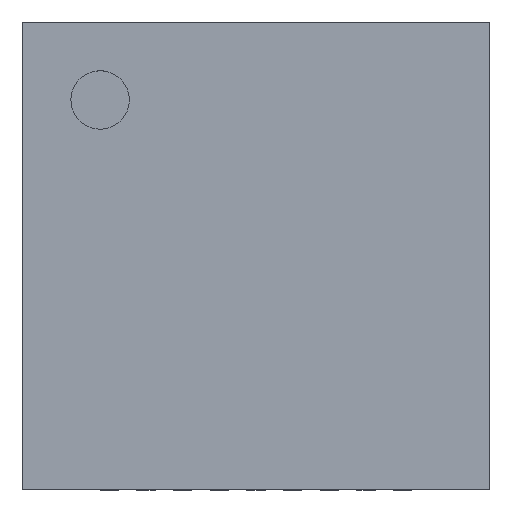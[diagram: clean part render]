
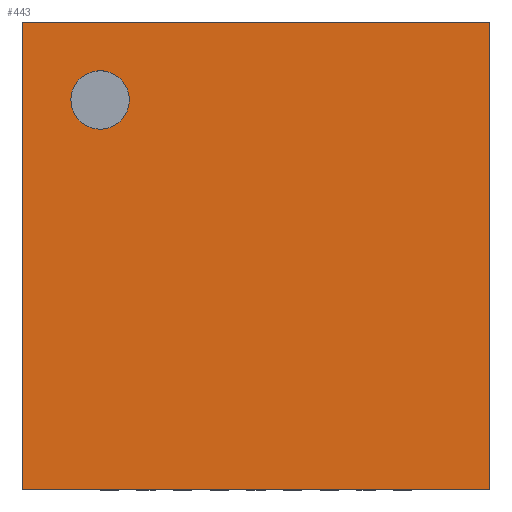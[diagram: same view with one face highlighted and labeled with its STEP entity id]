
A CAD part, top view. The second image highlights one B-rep face of the part: STEP entity #443.
In plain terms, the highlighted planar face has unit normal (0, 0, 1).
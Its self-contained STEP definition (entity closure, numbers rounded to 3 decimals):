
#254 = VERTEX_POINT('',#255);
#255 = CARTESIAN_POINT('',(0.,0.,0.8));
#262 = PLANE('',#263);
#263 = AXIS2_PLACEMENT_3D('',#264,#265,#266);
#264 = CARTESIAN_POINT('',(0.,0.,0.));
#265 = DIRECTION('',(1.,0.,0.));
#266 = DIRECTION('',(0.,0.,1.));
#274 = PLANE('',#275);
#275 = AXIS2_PLACEMENT_3D('',#276,#277,#278);
#276 = CARTESIAN_POINT('',(0.,0.,0.));
#277 = DIRECTION('',(0.,1.,0.));
#278 = DIRECTION('',(0.,0.,1.));
#315 = VERTEX_POINT('',#316);
#316 = CARTESIAN_POINT('',(0.,5.1,0.8));
#330 = PLANE('',#331);
#331 = AXIS2_PLACEMENT_3D('',#332,#333,#334);
#332 = CARTESIAN_POINT('',(0.,5.1,0.));
#333 = DIRECTION('',(0.,1.,0.));
#334 = DIRECTION('',(0.,0.,1.));
#342 = EDGE_CURVE('',#254,#315,#343,.T.);
#343 = SURFACE_CURVE('',#344,(#348,#355),.PCURVE_S1.);
#344 = LINE('',#345,#346);
#345 = CARTESIAN_POINT('',(0.,0.,0.8));
#346 = VECTOR('',#347,1.);
#347 = DIRECTION('',(0.,1.,0.));
#348 = PCURVE('',#262,#349);
#349 = DEFINITIONAL_REPRESENTATION('',(#350),#354);
#350 = LINE('',#351,#352);
#351 = CARTESIAN_POINT('',(0.8,0.));
#352 = VECTOR('',#353,1.);
#353 = DIRECTION('',(0.,-1.));
#354 = ( GEOMETRIC_REPRESENTATION_CONTEXT(2) 
PARAMETRIC_REPRESENTATION_CONTEXT() REPRESENTATION_CONTEXT('2D SPACE',''
  ) );
#355 = PCURVE('',#356,#361);
#356 = PLANE('',#357);
#357 = AXIS2_PLACEMENT_3D('',#358,#359,#360);
#358 = CARTESIAN_POINT('',(0.,0.,0.8));
#359 = DIRECTION('',(0.,0.,1.));
#360 = DIRECTION('',(1.,0.,0.));
#361 = DEFINITIONAL_REPRESENTATION('',(#362),#366);
#362 = LINE('',#363,#364);
#363 = CARTESIAN_POINT('',(0.,0.));
#364 = VECTOR('',#365,1.);
#365 = DIRECTION('',(0.,1.));
#366 = ( GEOMETRIC_REPRESENTATION_CONTEXT(2) 
PARAMETRIC_REPRESENTATION_CONTEXT() REPRESENTATION_CONTEXT('2D SPACE',''
  ) );
#395 = EDGE_CURVE('',#254,#396,#398,.T.);
#396 = VERTEX_POINT('',#397);
#397 = CARTESIAN_POINT('',(5.1,0.,0.8));
#398 = SURFACE_CURVE('',#399,(#403,#410),.PCURVE_S1.);
#399 = LINE('',#400,#401);
#400 = CARTESIAN_POINT('',(0.,0.,0.8));
#401 = VECTOR('',#402,1.);
#402 = DIRECTION('',(1.,0.,0.));
#403 = PCURVE('',#274,#404);
#404 = DEFINITIONAL_REPRESENTATION('',(#405),#409);
#405 = LINE('',#406,#407);
#406 = CARTESIAN_POINT('',(0.8,0.));
#407 = VECTOR('',#408,1.);
#408 = DIRECTION('',(0.,1.));
#409 = ( GEOMETRIC_REPRESENTATION_CONTEXT(2) 
PARAMETRIC_REPRESENTATION_CONTEXT() REPRESENTATION_CONTEXT('2D SPACE',''
  ) );
#410 = PCURVE('',#356,#411);
#411 = DEFINITIONAL_REPRESENTATION('',(#412),#416);
#412 = LINE('',#413,#414);
#413 = CARTESIAN_POINT('',(0.,0.));
#414 = VECTOR('',#415,1.);
#415 = DIRECTION('',(1.,0.));
#416 = ( GEOMETRIC_REPRESENTATION_CONTEXT(2) 
PARAMETRIC_REPRESENTATION_CONTEXT() REPRESENTATION_CONTEXT('2D SPACE',''
  ) );
#432 = PLANE('',#433);
#433 = AXIS2_PLACEMENT_3D('',#434,#435,#436);
#434 = CARTESIAN_POINT('',(5.1,0.,0.));
#435 = DIRECTION('',(1.,0.,0.));
#436 = DIRECTION('',(0.,0.,1.));
#443 = ADVANCED_FACE('',(#444,#492),#356,.T.);
#444 = FACE_BOUND('',#445,.T.);
#445 = EDGE_LOOP('',(#446,#447,#448,#471));
#446 = ORIENTED_EDGE('',*,*,#342,.F.);
#447 = ORIENTED_EDGE('',*,*,#395,.T.);
#448 = ORIENTED_EDGE('',*,*,#449,.T.);
#449 = EDGE_CURVE('',#396,#450,#452,.T.);
#450 = VERTEX_POINT('',#451);
#451 = CARTESIAN_POINT('',(5.1,5.1,0.8));
#452 = SURFACE_CURVE('',#453,(#457,#464),.PCURVE_S1.);
#453 = LINE('',#454,#455);
#454 = CARTESIAN_POINT('',(5.1,0.,0.8));
#455 = VECTOR('',#456,1.);
#456 = DIRECTION('',(0.,1.,0.));
#457 = PCURVE('',#356,#458);
#458 = DEFINITIONAL_REPRESENTATION('',(#459),#463);
#459 = LINE('',#460,#461);
#460 = CARTESIAN_POINT('',(5.1,0.));
#461 = VECTOR('',#462,1.);
#462 = DIRECTION('',(0.,1.));
#463 = ( GEOMETRIC_REPRESENTATION_CONTEXT(2) 
PARAMETRIC_REPRESENTATION_CONTEXT() REPRESENTATION_CONTEXT('2D SPACE',''
  ) );
#464 = PCURVE('',#432,#465);
#465 = DEFINITIONAL_REPRESENTATION('',(#466),#470);
#466 = LINE('',#467,#468);
#467 = CARTESIAN_POINT('',(0.8,0.));
#468 = VECTOR('',#469,1.);
#469 = DIRECTION('',(0.,-1.));
#470 = ( GEOMETRIC_REPRESENTATION_CONTEXT(2) 
PARAMETRIC_REPRESENTATION_CONTEXT() REPRESENTATION_CONTEXT('2D SPACE',''
  ) );
#471 = ORIENTED_EDGE('',*,*,#472,.F.);
#472 = EDGE_CURVE('',#315,#450,#473,.T.);
#473 = SURFACE_CURVE('',#474,(#478,#485),.PCURVE_S1.);
#474 = LINE('',#475,#476);
#475 = CARTESIAN_POINT('',(0.,5.1,0.8));
#476 = VECTOR('',#477,1.);
#477 = DIRECTION('',(1.,0.,0.));
#478 = PCURVE('',#356,#479);
#479 = DEFINITIONAL_REPRESENTATION('',(#480),#484);
#480 = LINE('',#481,#482);
#481 = CARTESIAN_POINT('',(0.,5.1));
#482 = VECTOR('',#483,1.);
#483 = DIRECTION('',(1.,0.));
#484 = ( GEOMETRIC_REPRESENTATION_CONTEXT(2) 
PARAMETRIC_REPRESENTATION_CONTEXT() REPRESENTATION_CONTEXT('2D SPACE',''
  ) );
#485 = PCURVE('',#330,#486);
#486 = DEFINITIONAL_REPRESENTATION('',(#487),#491);
#487 = LINE('',#488,#489);
#488 = CARTESIAN_POINT('',(0.8,0.));
#489 = VECTOR('',#490,1.);
#490 = DIRECTION('',(0.,1.));
#491 = ( GEOMETRIC_REPRESENTATION_CONTEXT(2) 
PARAMETRIC_REPRESENTATION_CONTEXT() REPRESENTATION_CONTEXT('2D SPACE',''
  ) );
#492 = FACE_BOUND('',#493,.T.);
#493 = EDGE_LOOP('',(#494));
#494 = ORIENTED_EDGE('',*,*,#495,.F.);
#495 = EDGE_CURVE('',#496,#496,#498,.T.);
#496 = VERTEX_POINT('',#497);
#497 = CARTESIAN_POINT('',(1.169,4.25,0.8));
#498 = SURFACE_CURVE('',#499,(#504,#511),.PCURVE_S1.);
#499 = CIRCLE('',#500,0.319);
#500 = AXIS2_PLACEMENT_3D('',#501,#502,#503);
#501 = CARTESIAN_POINT('',(0.85,4.25,0.8));
#502 = DIRECTION('',(0.,0.,1.));
#503 = DIRECTION('',(1.,0.,0.));
#504 = PCURVE('',#356,#505);
#505 = DEFINITIONAL_REPRESENTATION('',(#506),#510);
#506 = CIRCLE('',#507,0.319);
#507 = AXIS2_PLACEMENT_2D('',#508,#509);
#508 = CARTESIAN_POINT('',(0.85,4.25));
#509 = DIRECTION('',(1.,0.));
#510 = ( GEOMETRIC_REPRESENTATION_CONTEXT(2) 
PARAMETRIC_REPRESENTATION_CONTEXT() REPRESENTATION_CONTEXT('2D SPACE',''
  ) );
#511 = PCURVE('',#512,#517);
#512 = CYLINDRICAL_SURFACE('',#513,0.319);
#513 = AXIS2_PLACEMENT_3D('',#514,#515,#516);
#514 = CARTESIAN_POINT('',(0.85,4.25,0.7));
#515 = DIRECTION('',(0.,0.,1.));
#516 = DIRECTION('',(1.,0.,0.));
#517 = DEFINITIONAL_REPRESENTATION('',(#518),#522);
#518 = LINE('',#519,#520);
#519 = CARTESIAN_POINT('',(0.,0.1));
#520 = VECTOR('',#521,1.);
#521 = DIRECTION('',(1.,0.));
#522 = ( GEOMETRIC_REPRESENTATION_CONTEXT(2) 
PARAMETRIC_REPRESENTATION_CONTEXT() REPRESENTATION_CONTEXT('2D SPACE',''
  ) );
